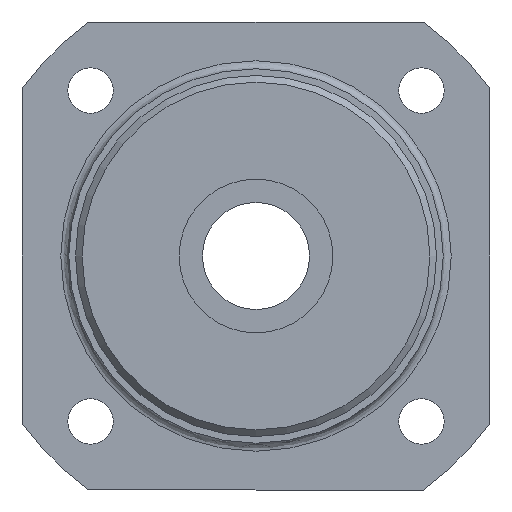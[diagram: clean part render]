
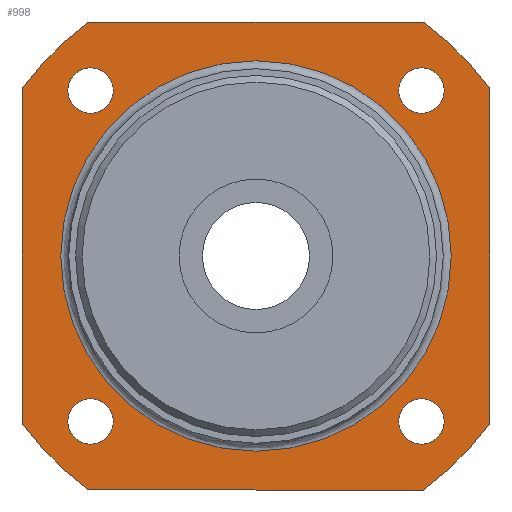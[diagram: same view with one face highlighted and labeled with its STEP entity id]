
A CAD part, left-side view. The second image highlights one B-rep face of the part: STEP entity #998.
In plain terms, the highlighted planar face has unit normal (-1, 0, 0).
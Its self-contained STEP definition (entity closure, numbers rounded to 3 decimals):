
#523=CARTESIAN_POINT('',(-9.,-14.074,-12.374));
#524=VERTEX_POINT('',#523);
#525=CARTESIAN_POINT('',(-9.,-12.374,-12.374));
#526=DIRECTION('',(1.0,0.0,0.0));
#527=DIRECTION('',(0.0,1.0,0.0));
#528=AXIS2_PLACEMENT_3D('',#525,#526,#527);
#529=CIRCLE('',#528,1.7);
#530=EDGE_CURVE('',#524,#524,#529,.T.);
#633=CARTESIAN_POINT('',(-9.,10.674,12.374));
#634=VERTEX_POINT('',#633);
#635=CARTESIAN_POINT('',(-9.,12.374,12.374));
#636=DIRECTION('',(1.0,0.0,0.0));
#637=DIRECTION('',(0.0,1.0,0.0));
#638=AXIS2_PLACEMENT_3D('',#635,#636,#637);
#639=CIRCLE('',#638,1.7);
#640=EDGE_CURVE('',#634,#634,#639,.T.);
#743=CARTESIAN_POINT('',(-9.,-14.074,12.374));
#744=VERTEX_POINT('',#743);
#745=CARTESIAN_POINT('',(-9.,-12.374,12.374));
#746=DIRECTION('',(1.0,0.0,0.0));
#747=DIRECTION('',(0.0,1.0,0.0));
#748=AXIS2_PLACEMENT_3D('',#745,#746,#747);
#749=CIRCLE('',#748,1.7);
#750=EDGE_CURVE('',#744,#744,#749,.T.);
#853=CARTESIAN_POINT('',(-9.,10.674,-12.374));
#854=VERTEX_POINT('',#853);
#855=CARTESIAN_POINT('',(-9.,12.374,-12.374));
#856=DIRECTION('',(1.0,0.0,0.0));
#857=DIRECTION('',(0.0,1.0,0.0));
#858=AXIS2_PLACEMENT_3D('',#855,#856,#857);
#859=CIRCLE('',#858,1.7);
#860=EDGE_CURVE('',#854,#854,#859,.T.);
#873=CARTESIAN_POINT('',(-9.,12.49,17.5));
#874=VERTEX_POINT('',#873);
#892=CARTESIAN_POINT('',(-9.,17.5,12.49));
#893=VERTEX_POINT('',#892);
#900=CARTESIAN_POINT('',(-9.,0.0,0.0));
#901=DIRECTION('',(1.0,0.0,0.0));
#902=DIRECTION('',(0.0,1.0,0.0));
#903=AXIS2_PLACEMENT_3D('',#900,#901,#902);
#904=CIRCLE('',#903,21.5);
#905=EDGE_CURVE('',#893,#874,#904,.T.);
#910=CARTESIAN_POINT('',(-9.,18.05,0.0));
#911=DIRECTION('',(-1.0,0.0,0.0));
#912=DIRECTION('',(0.0,0.0,1.0));
#913=AXIS2_PLACEMENT_3D('',#910,#911,#912);
#914=PLANE('',#913);
#915=CARTESIAN_POINT('',(-9.,-12.49,17.5));
#916=VERTEX_POINT('',#915);
#917=CARTESIAN_POINT('',(-9.,-12.49,17.5));
#918=DIRECTION('',(0.0,1.0,0.0));
#919=VECTOR('',#918,24.98);
#920=LINE('',#917,#919);
#921=EDGE_CURVE('',#916,#874,#920,.T.);
#922=ORIENTED_EDGE('',*,*,#921,.T.);
#923=ORIENTED_EDGE('',*,*,#905,.F.);
#924=CARTESIAN_POINT('',(-9.,17.5,-12.49));
#925=VERTEX_POINT('',#924);
#926=CARTESIAN_POINT('',(-9.,17.5,12.49));
#927=DIRECTION('',(0.0,0.0,-1.0));
#928=VECTOR('',#927,24.98);
#929=LINE('',#926,#928);
#930=EDGE_CURVE('',#893,#925,#929,.T.);
#931=ORIENTED_EDGE('',*,*,#930,.T.);
#932=CARTESIAN_POINT('',(-9.,12.49,-17.5));
#933=VERTEX_POINT('',#932);
#934=CARTESIAN_POINT('',(-9.,0.0,0.0));
#935=DIRECTION('',(1.0,0.0,0.0));
#936=DIRECTION('',(0.0,1.0,0.0));
#937=AXIS2_PLACEMENT_3D('',#934,#935,#936);
#938=CIRCLE('',#937,21.5);
#939=EDGE_CURVE('',#933,#925,#938,.T.);
#940=ORIENTED_EDGE('',*,*,#939,.F.);
#941=CARTESIAN_POINT('',(-9.,-12.49,-17.5));
#942=VERTEX_POINT('',#941);
#943=CARTESIAN_POINT('',(-9.,12.49,-17.5));
#944=DIRECTION('',(0.0,-1.0,0.0));
#945=VECTOR('',#944,24.98);
#946=LINE('',#943,#945);
#947=EDGE_CURVE('',#933,#942,#946,.T.);
#948=ORIENTED_EDGE('',*,*,#947,.T.);
#949=CARTESIAN_POINT('',(-9.,-17.5,-12.49));
#950=VERTEX_POINT('',#949);
#951=CARTESIAN_POINT('',(-9.,0.0,0.0));
#952=DIRECTION('',(1.0,0.0,0.0));
#953=DIRECTION('',(0.0,1.0,0.0));
#954=AXIS2_PLACEMENT_3D('',#951,#952,#953);
#955=CIRCLE('',#954,21.5);
#956=EDGE_CURVE('',#950,#942,#955,.T.);
#957=ORIENTED_EDGE('',*,*,#956,.F.);
#958=CARTESIAN_POINT('',(-9.,-17.5,12.49));
#959=VERTEX_POINT('',#958);
#960=CARTESIAN_POINT('',(-9.,-17.5,-12.49));
#961=DIRECTION('',(0.0,0.0,1.0));
#962=VECTOR('',#961,24.98);
#963=LINE('',#960,#962);
#964=EDGE_CURVE('',#950,#959,#963,.T.);
#965=ORIENTED_EDGE('',*,*,#964,.T.);
#966=CARTESIAN_POINT('',(-9.,0.0,0.0));
#967=DIRECTION('',(1.0,0.0,0.0));
#968=DIRECTION('',(0.0,1.0,0.0));
#969=AXIS2_PLACEMENT_3D('',#966,#967,#968);
#970=CIRCLE('',#969,21.5);
#971=EDGE_CURVE('',#916,#959,#970,.T.);
#972=ORIENTED_EDGE('',*,*,#971,.F.);
#973=EDGE_LOOP('',(#922,#923,#931,#940,#948,#957,#965,#972));
#974=FACE_OUTER_BOUND('',#973,.T.);
#975=ORIENTED_EDGE('',*,*,#530,.T.);
#976=EDGE_LOOP('',(#975));
#977=FACE_BOUND('',#976,.T.);
#978=ORIENTED_EDGE('',*,*,#640,.T.);
#979=EDGE_LOOP('',(#978));
#980=FACE_BOUND('',#979,.T.);
#981=ORIENTED_EDGE('',*,*,#750,.T.);
#982=EDGE_LOOP('',(#981));
#983=FACE_BOUND('',#982,.T.);
#984=ORIENTED_EDGE('',*,*,#860,.T.);
#985=EDGE_LOOP('',(#984));
#986=FACE_BOUND('',#985,.T.);
#987=CARTESIAN_POINT('',(-9.0,14.6,0.0));
#988=VERTEX_POINT('',#987);
#989=CARTESIAN_POINT('',(-9.0,0.0,0.0));
#990=DIRECTION('',(1.0,0.0,0.0));
#991=DIRECTION('',(0.0,1.0,0.0));
#992=AXIS2_PLACEMENT_3D('',#989,#990,#991);
#993=CIRCLE('',#992,14.6);
#994=EDGE_CURVE('',#988,#988,#993,.T.);
#995=ORIENTED_EDGE('',*,*,#994,.T.);
#996=EDGE_LOOP('',(#995));
#997=FACE_BOUND('',#996,.T.);
#998=ADVANCED_FACE('',(#974,#977,#980,#983,#986,#997),#914,.T.);
